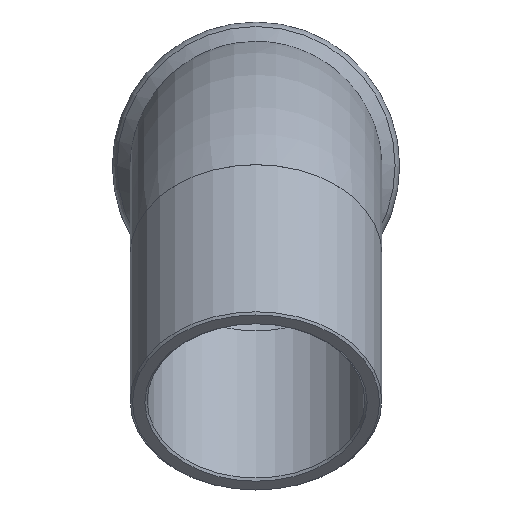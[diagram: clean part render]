
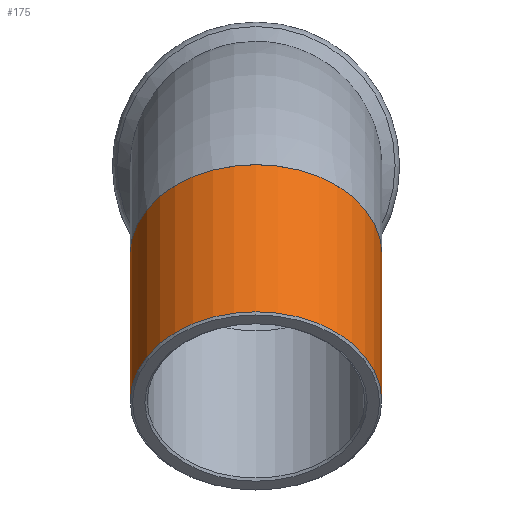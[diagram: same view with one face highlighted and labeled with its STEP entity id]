
A CAD part, top view. The second image highlights one B-rep face of the part: STEP entity #175.
In plain terms, the highlighted cylindrical face has radius 11.113 mm (diameter 22.225 mm), a full revolution.
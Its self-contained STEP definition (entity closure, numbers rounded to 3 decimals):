
#144=CARTESIAN_POINT('',(11.113,5.869,31.891));
#145=VERTEX_POINT('',#144);
#146=CARTESIAN_POINT('',(0.0,5.869,31.891));
#147=DIRECTION('',(0.0,-0.707,0.707));
#148=DIRECTION('',(-1.0,0.0,0.0));
#149=AXIS2_PLACEMENT_3D('',#146,#147,#148);
#150=CIRCLE('',#149,11.113);
#151=EDGE_CURVE('',#145,#145,#150,.T.);
#156=CARTESIAN_POINT('',(0.0,18.88,18.88));
#157=DIRECTION('',(0.0,-0.707,0.707));
#158=DIRECTION('',(-1.0,0.0,0.0));
#159=AXIS2_PLACEMENT_3D('',#156,#157,#158);
#160=CYLINDRICAL_SURFACE('',#159,11.113);
#161=CARTESIAN_POINT('',(11.113,18.88,18.88));
#162=VERTEX_POINT('',#161);
#163=CARTESIAN_POINT('',(0.0,18.88,18.88));
#164=DIRECTION('',(0.0,0.707,-0.707));
#165=DIRECTION('',(-1.0,0.0,0.0));
#166=AXIS2_PLACEMENT_3D('',#163,#164,#165);
#167=CIRCLE('',#166,11.113);
#168=EDGE_CURVE('',#162,#162,#167,.T.);
#169=ORIENTED_EDGE('',*,*,#168,.F.);
#170=EDGE_LOOP('',(#169));
#171=FACE_OUTER_BOUND('',#170,.T.);
#172=ORIENTED_EDGE('',*,*,#151,.F.);
#173=EDGE_LOOP('',(#172));
#174=FACE_BOUND('',#173,.T.);
#175=ADVANCED_FACE('',(#171,#174),#160,.T.);
